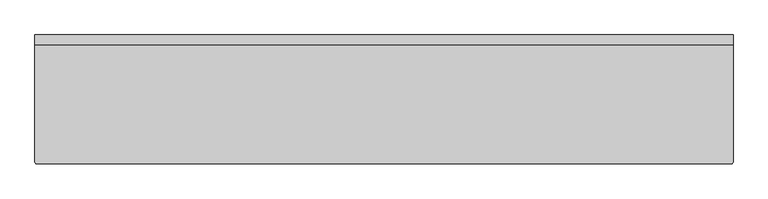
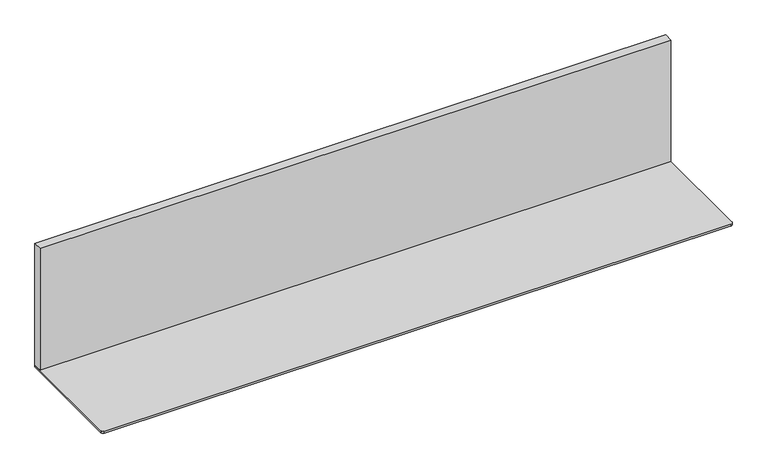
"""IFC4 building model written with IfcOpenShell, lengths in millimetres: furniture geometry, Geiger_GeigerOneCasegoods_OverheadStorageMetalShelf : TFL Back 72Wx 13.5Dx 14.875H."""

from ifc_helpers import new_model, si_unit, point, frame, frame_2d, origin, origin_with_axes, place, context, project, spatial, polyline, circle_curve, trimmed, segment, composite_curve, outline, extrude, source, transform, mapped, element, save


def furniture_8c12f292(model_context):
    return source(origin(), model_context, "Body", "SweptSolid", [
        extrude(outline(composite_curve([segment(polyline([(1828.8, 0.0), (1828.8, -331.65)]), True, "CONTINUOUS"), segment(trimmed(circle_curve(frame_2d((1822.45, -331.65)), 6.35), [point((1828.8, -331.65))], [point((1822.45, -338.0))], False, "CARTESIAN"), True, "CONTINUOUS"), segment(polyline([(1822.45, -338.0), (6.35, -338.0)]), True, "CONTINUOUS"), segment(trimmed(circle_curve(frame_2d((6.35, -331.65)), 6.35), [point((6.35, -338.0))], [point((0.0, -331.65))], False, "CARTESIAN"), True, "CONTINUOUS"), segment(polyline([(0.0, -331.65), (0.0, 0.0), (1828.8, 0.0)]), True, "CONTINUOUS")], self_intersect=False)), origin_with_axes(), (0.0, 0.0, 1.0), 6.0),
        extrude(outline(polyline([(1828.8, 0.0), (1828.8, -26.0), (0.0, -26.0), (0.0, 0.0), (1828.8, 0.0)])), frame((0.0, 0.0, 6.0), z_axis=(0.0, 0.0, 1.0), x_axis=(1.0, 0.0, 0.0)), (0.0, 0.0, 1.0), 373.0),
    ])


if __name__ == "__main__":
    model = new_model("IFC4")
    model_context = context("Model", 3, world=origin())
    ifc_project = project(units=[si_unit("LENGTHUNIT", "METRE", prefix="MILLI")], contexts=[model_context])
    site = spatial("IfcSite", under=ifc_project)
    building = spatial("IfcBuilding", under=site)
    placement = place(None, origin())
    furniture_shape = furniture_8c12f292(model_context)
    element("IfcFurniture", 1, ObjectType="Geiger_GeigerOneCasegoods_OverheadStorageMetalShelf : TFL Back 72Wx 13.5Dx 14.875H", at=placement, inside=building, context=model_context, shape_type="MappedRepresentation", body=[
        mapped(furniture_shape, transform((0.0, 0.0, 0.0), x_axis=(1.0, 0.0, 0.0), y_axis=(0.0, 1.0, 0.0), z_axis=(0.0, 0.0, 1.0))),
    ])
    save(model, "model.ifc")
